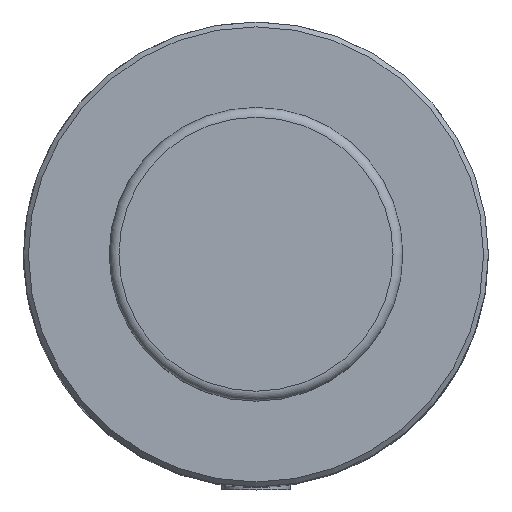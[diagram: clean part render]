
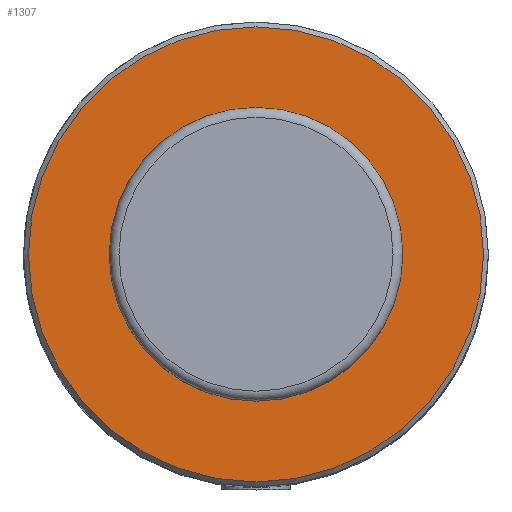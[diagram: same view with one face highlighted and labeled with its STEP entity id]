
A CAD part, top view. The second image highlights one B-rep face of the part: STEP entity #1307.
In plain terms, the highlighted planar face has unit normal (0, 0, 1).
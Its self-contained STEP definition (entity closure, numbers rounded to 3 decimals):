
#1287 = VERTEX_POINT('',#1288);
#1288 = CARTESIAN_POINT('',(46.5,0.,86.));
#1296 = EDGE_CURVE('',#1287,#1287,#1297,.T.);
#1297 = CIRCLE('',#1298,46.5);
#1298 = AXIS2_PLACEMENT_3D('',#1299,#1300,#1301);
#1299 = CARTESIAN_POINT('',(0.,0.,86.));
#1300 = DIRECTION('',(0.,0.,1.));
#1301 = DIRECTION('',(1.,0.,0.));
#1307 = ADVANCED_FACE('',(#1308),#1311,.T.);
#1308 = FACE_BOUND('',#1309,.T.);
#1309 = EDGE_LOOP('',(#1310));
#1310 = ORIENTED_EDGE('',*,*,#1296,.T.);
#1311 = PLANE('',#1312);
#1312 = AXIS2_PLACEMENT_3D('',#1313,#1314,#1315);
#1313 = CARTESIAN_POINT('',(0.,0.,86.));
#1314 = DIRECTION('',(0.,0.,1.));
#1315 = DIRECTION('',(1.,0.,0.));
